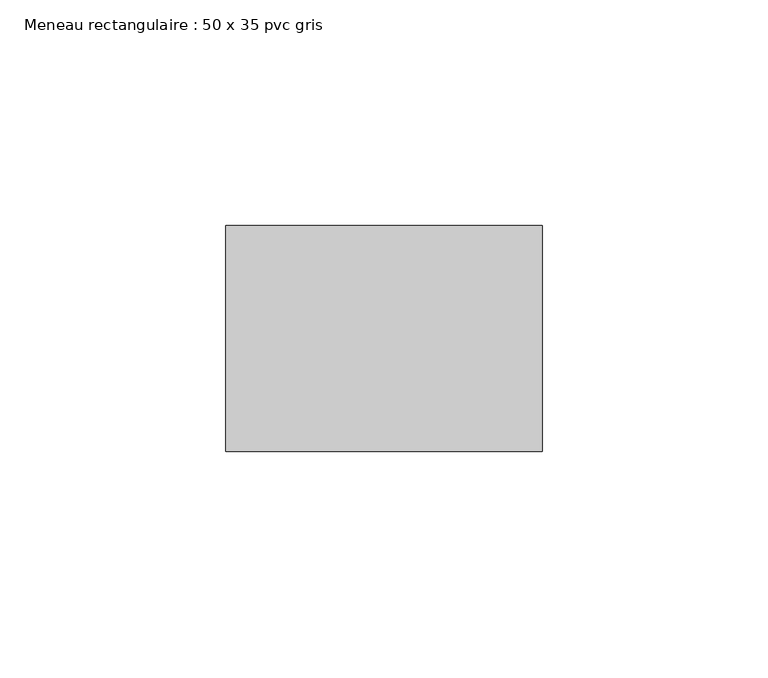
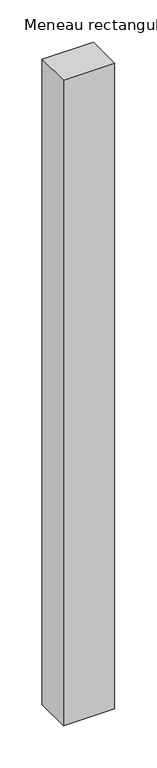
"""IFC4 building model written with IfcOpenShell, lengths in millimetres: member geometry, Meneau rectangulaire : 50 x 35 pvc gris."""

from ifc_helpers import new_model, si_unit, frame, origin, place, context, project, spatial, polyline, outline, extrude, source, transform, mapped, element, save


def meneau_rectangulaire_50_x_35_pvc_gris_c7dc49b9(model_context):
    return source(origin(), model_context, "Body", "SweptSolid", [
        extrude(outline(polyline([(35.0, 0.0), (35.0, -50.0), (-35.0, -50.0), (-35.0, 0.0), (35.0, 0.0)])), frame((0.0, 0.0, -930.0), z_axis=(0.0, 0.0, 1.0), x_axis=(1.0, 0.0, 0.0)), (0.0, 0.0, 1.0), 930.0),
    ])


if __name__ == "__main__":
    model = new_model("IFC4")
    model_context = context("Model", 3, world=origin())
    ifc_project = project(units=[si_unit("LENGTHUNIT", "METRE", prefix="MILLI")], contexts=[model_context])
    site = spatial("IfcSite", under=ifc_project)
    building = spatial("IfcBuilding", under=site)
    placement = place(None, origin())
    meneau_rectangulaire_50_x_35_pvc_gris_shape = meneau_rectangulaire_50_x_35_pvc_gris_c7dc49b9(model_context)
    element("IfcMember", 1, ObjectType="Meneau rectangulaire : 50 x 35 pvc gris", at=placement, inside=building, context=model_context, shape_type="MappedRepresentation", body=[
        mapped(meneau_rectangulaire_50_x_35_pvc_gris_shape, transform((0.0, 0.0, 0.0), x_axis=(1.0, 0.0, 0.0), y_axis=(0.0, 1.0, 0.0), z_axis=(0.0, 0.0, 1.0))),
    ])
    save(model, "model.ifc")
